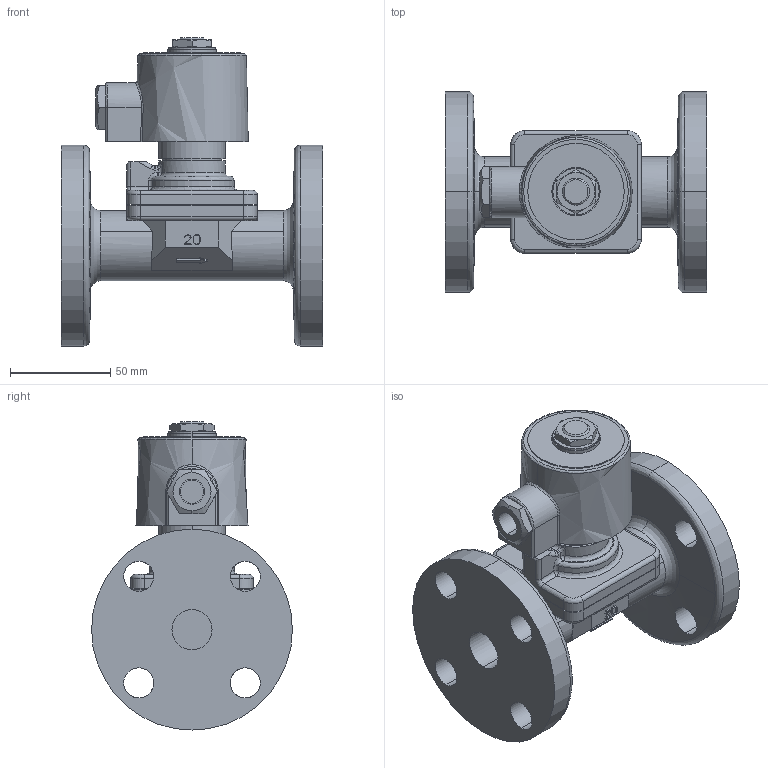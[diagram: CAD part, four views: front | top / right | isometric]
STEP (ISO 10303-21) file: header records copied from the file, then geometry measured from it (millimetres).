
FILE_DESCRIPTION( (''), '2;1');
FILE_NAME ('PC1056.13084.DP-200F(20A)_21784.stp','2024-07-19T12:51:58',(''),(''),'spGate 19.8.4 (****-****-****-****)','','');
FILE_SCHEMA (('AUTOMOTIVE_DESIGN'));
Length unit declared in the file: millimetre
Bounding box: 130 x 100 x 153.4 mm (x, y, z)
Volume: 497945.4 mm3; surface area: 81610.3 mm2
Topology: 1 solids, 1 shells, 317 faces, 799 edges, 498 vertices
Faces by surface type: plane 107, cylinder 104, bspline 102, sphere 4
Entity records: 19343 total; most frequent: CARTESIAN_POINT 6227, ORIENTED_EDGE 1586, DIRECTION 1196, COLOUR_RGB 1111, PRESENTATION_STYLE_ASSIGNMENT 1111, STYLED_ITEM 1111, EDGE_CURVE 793, DRAUGHTING_PRE_DEFINED_CURVE_FONT 793
